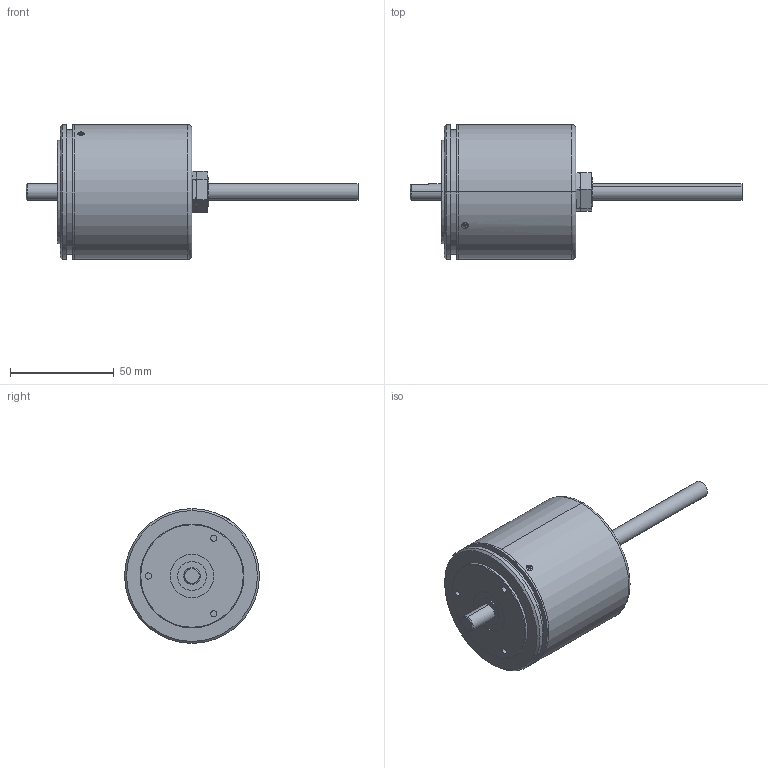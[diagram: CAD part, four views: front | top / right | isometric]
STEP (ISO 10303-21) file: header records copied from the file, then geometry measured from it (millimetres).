
FILE_DESCRIPTION (( 'STEP AP214' ), '1' );
FILE_NAME ('AMシリーズ　マルチターン式ABSエンコーダ＿Aタイプ_Assem1.STEP', '2024-07-22T04:25:46', ( '' ), ( '' ), 'SwSTEP 2.0', 'SolidWorks 2023', '' );
FILE_SCHEMA (( 'AUTOMOTIVE_DESIGN' ));
Length unit declared in the file: millimetre
Products named in the file (5): AM_Aタイプ_Part3; AMシリーズ　マルチターン式ABSエンコーダ＿Aタイプ_Assem1; AM_Aタイプ_Part2; AM_Aタイプ_Part1; Flat Head SCREW M2 X6 MM
Assembly tree (4 placements, depth 2):
  AMシリーズ　マルチターン式ABSエンコーダ＿Aタイプ_Assem1
    AM_Aタイプ_Part1
    AM_Aタイプ_Part2
    Flat Head SCREW M2 X6 MM
    AM_Aタイプ_Part3
Bounding box: 160 x 65 x 65 mm (x, y, z)
Volume: 214974.4 mm3; surface area: 32107 mm2
Topology: 5 solids, 5 shells, 104 faces, 236 edges, 155 vertices
Faces by surface type: plane 41, cylinder 34, cone 23, bspline 4, torus 2
Entity records: 3326 total; most frequent: CARTESIAN_POINT 770, DIRECTION 529, ORIENTED_EDGE 472, EDGE_CURVE 236, AXIS2_PLACEMENT_3D 210, VERTEX_POINT 155, EDGE_LOOP 121, VECTOR 109
